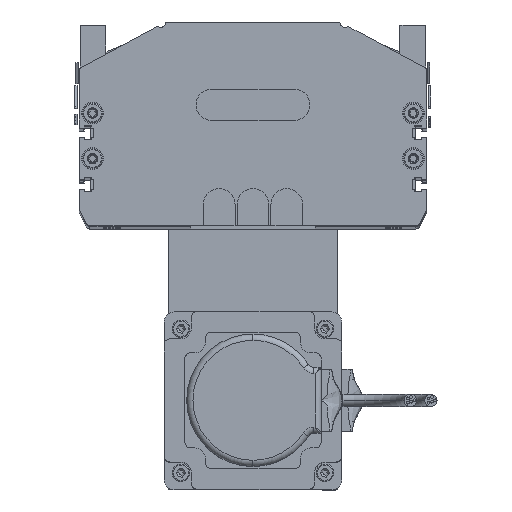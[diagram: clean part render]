
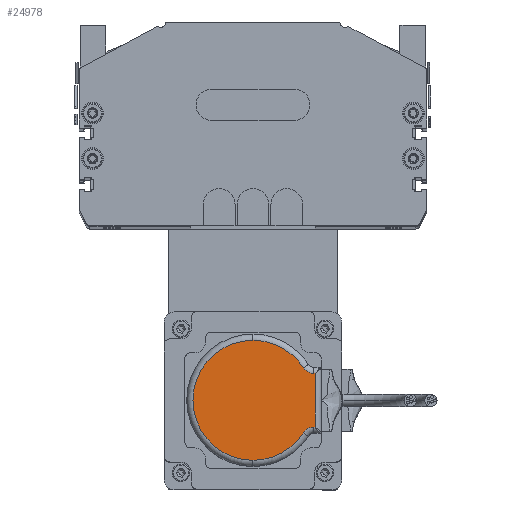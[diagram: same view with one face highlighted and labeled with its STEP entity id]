
A CAD part, top view. The second image highlights one B-rep face of the part: STEP entity #24978.
In plain terms, the highlighted planar face has unit normal (0, 0, 1).
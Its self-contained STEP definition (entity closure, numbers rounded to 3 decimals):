
#24721 = ORIENTED_EDGE ( 'NONE', *, *, #25292, .T. ) ;
#24730 = ORIENTED_EDGE ( 'NONE', *, *, #25161, .T. ) ;
#24796 = ORIENTED_EDGE ( 'NONE', *, *, #25769, .T. ) ;
#24886 = ORIENTED_EDGE ( 'NONE', *, *, #24938, .T. ) ;
#24938 = EDGE_CURVE ( 'NONE', #25826, #24939, #40024, .T. ) ;
#24939 = VERTEX_POINT ( 'NONE', #39988 ) ;
#24975 = ORIENTED_EDGE ( 'NONE', *, *, #24977, .F. ) ;
#24976 = ORIENTED_EDGE ( 'NONE', *, *, #25290, .F. ) ;
#24977 = EDGE_CURVE ( 'NONE', #25827, #24983, #40578, .T. ) ;
#24978 = ADVANCED_FACE ( 'NONE', ( #40496 ), #40559, .T. ) ;
#24979 = ORIENTED_EDGE ( 'NONE', *, *, #25875, .T. ) ;
#24980 = EDGE_LOOP ( 'NONE', ( #24975, #24979, #24796, #24886, #24976, #25269, #24730, #24721 ) ) ;
#24983 = VERTEX_POINT ( 'NONE', #40579 ) ;
#25025 = VERTEX_POINT ( 'NONE', #40416 ) ;
#25160 = EDGE_CURVE ( 'NONE', #25025, #25254, #41216, .T. ) ;
#25161 = EDGE_CURVE ( 'NONE', #25254, #25291, #41224, .T. ) ;
#25254 = VERTEX_POINT ( 'NONE', #41561 ) ;
#25269 = ORIENTED_EDGE ( 'NONE', *, *, #25160, .T. ) ;
#25290 = EDGE_CURVE ( 'NONE', #25025, #24939, #41844, .T. ) ;
#25291 = VERTEX_POINT ( 'NONE', #41841 ) ;
#25292 = EDGE_CURVE ( 'NONE', #25291, #24983, #41808, .T. ) ;
#25769 = EDGE_CURVE ( 'NONE', #25876, #25826, #50229, .T. ) ;
#25826 = VERTEX_POINT ( 'NONE', #50412 ) ;
#25827 = VERTEX_POINT ( 'NONE', #50401 ) ;
#25875 = EDGE_CURVE ( 'NONE', #25827, #25876, #50517, .T. ) ;
#25876 = VERTEX_POINT ( 'NONE', #50522 ) ;
#39980 = DIRECTION ( 'NONE',  ( 1., 0., 0. ) ) ;
#39982 = DIRECTION ( 'NONE',  ( 0., 0., 1. ) ) ;
#39984 = CARTESIAN_POINT ( 'NONE',  ( 33., 33., 26. ) ) ;
#39988 = CARTESIAN_POINT ( 'NONE',  ( 48.743, 57.355, 26. ) ) ;
#40001 = AXIS2_PLACEMENT_3D ( 'NONE', #39984, #39982, #39980 ) ;
#40024 = CIRCLE ( 'NONE', #40001, 29. ) ;
#40416 = CARTESIAN_POINT ( 'NONE',  ( 46., 62.394, 26. ) ) ;
#40485 = AXIS2_PLACEMENT_3D ( 'NONE', #40573, #40572, #40571 ) ;
#40496 = FACE_OUTER_BOUND ( 'NONE', #24980, .T. ) ;
#40559 = PLANE ( 'NONE',  #40567 ) ;
#40564 = DIRECTION ( 'NONE',  ( 1., 0., 0. ) ) ;
#40565 = DIRECTION ( 'NONE',  ( 0., 0., 1. ) ) ;
#40566 = CARTESIAN_POINT ( 'NONE',  ( 33., 33., 26. ) ) ;
#40567 = AXIS2_PLACEMENT_3D ( 'NONE', #40566, #40565, #40564 ) ;
#40571 = DIRECTION ( 'NONE',  ( 1., 0., 0. ) ) ;
#40572 = DIRECTION ( 'NONE',  ( 0., 0., 1. ) ) ;
#40573 = CARTESIAN_POINT ( 'NONE',  ( 14., 62.394, 26. ) ) ;
#40578 = CIRCLE ( 'NONE', #40485, 6. ) ;
#40579 = CARTESIAN_POINT ( 'NONE',  ( 20., 62.394, 26. ) ) ;
#40876 = CARTESIAN_POINT ( 'NONE',  ( 17.5, 63., 26. ) ) ;
#41206 = DIRECTION ( 'NONE',  ( -1., 0., 0. ) ) ;
#41208 = VECTOR ( 'NONE', #41206, 1000. ) ;
#41212 = DIRECTION ( 'NONE',  ( 0., 1., 0. ) ) ;
#41213 = VECTOR ( 'NONE', #41212, 1000. ) ;
#41215 = CARTESIAN_POINT ( 'NONE',  ( 46., 33., 26. ) ) ;
#41216 = LINE ( 'NONE', #41215, #41213 ) ;
#41224 = LINE ( 'NONE', #40876, #41208 ) ;
#41561 = CARTESIAN_POINT ( 'NONE',  ( 46., 63., 26. ) ) ;
#41804 = DIRECTION ( 'NONE',  ( 0., -1., 0. ) ) ;
#41806 = VECTOR ( 'NONE', #41804, 1000. ) ;
#41807 = CARTESIAN_POINT ( 'NONE',  ( 20., 33., 26. ) ) ;
#41808 = LINE ( 'NONE', #41807, #41806 ) ;
#41817 = DIRECTION ( 'NONE',  ( 1., 0., 0. ) ) ;
#41835 = DIRECTION ( 'NONE',  ( 0., 0., 1. ) ) ;
#41841 = CARTESIAN_POINT ( 'NONE',  ( 20., 63., 26. ) ) ;
#41844 = CIRCLE ( 'NONE', #41847, 6. ) ;
#41847 = AXIS2_PLACEMENT_3D ( 'NONE', #41869, #41835, #41817 ) ;
#41869 = CARTESIAN_POINT ( 'NONE',  ( 52., 62.394, 26. ) ) ;
#50229 = CIRCLE ( 'NONE', #50242, 29. ) ;
#50239 = DIRECTION ( 'NONE',  ( 1., 0., 0. ) ) ;
#50240 = DIRECTION ( 'NONE',  ( 0., 0., 1. ) ) ;
#50241 = CARTESIAN_POINT ( 'NONE',  ( 33., 33., 26. ) ) ;
#50242 = AXIS2_PLACEMENT_3D ( 'NONE', #50241, #50240, #50239 ) ;
#50401 = CARTESIAN_POINT ( 'NONE',  ( 17.257, 57.355, 26. ) ) ;
#50412 = CARTESIAN_POINT ( 'NONE',  ( 62., 33., 26. ) ) ;
#50512 = DIRECTION ( 'NONE',  ( 1., 0., 0. ) ) ;
#50513 = DIRECTION ( 'NONE',  ( 0., 0., 1. ) ) ;
#50514 = CARTESIAN_POINT ( 'NONE',  ( 33., 33., 26. ) ) ;
#50515 = AXIS2_PLACEMENT_3D ( 'NONE', #50514, #50513, #50512 ) ;
#50517 = CIRCLE ( 'NONE', #50515, 29. ) ;
#50522 = CARTESIAN_POINT ( 'NONE',  ( 4., 33., 26. ) ) ;
